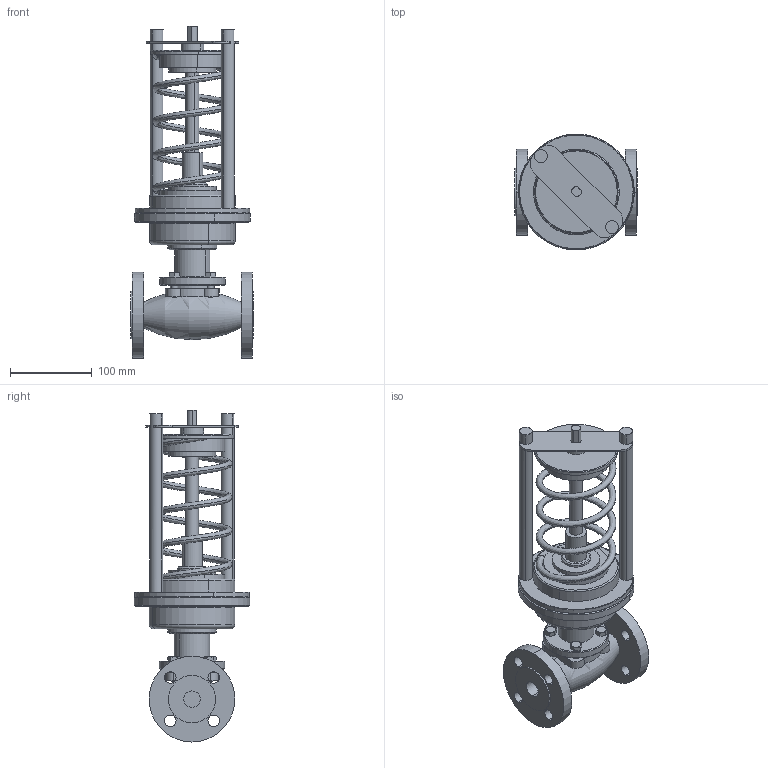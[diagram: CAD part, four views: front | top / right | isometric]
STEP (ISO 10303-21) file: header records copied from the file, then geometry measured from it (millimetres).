
FILE_DESCRIPTION (( 'STEP AP214' ), '1' );
FILE_NAME ('RDT, RDT-B DN-20.STEP', '2025-12-12T05:42:18', ( '' ), ( '' ), 'SwSTEP 2.0', 'SolidWorks 2023', '' );
FILE_SCHEMA (( 'AUTOMOTIVE_DESIGN' ));
Length unit declared in the file: millimetre
Products named in the file (1): RDT, RDT-B DN-20
Bounding box: 150 x 141.86 x 406.5 mm (x, y, z)
Volume: 1660971.5 mm3; surface area: 233132.8 mm2
Topology: 1 solids, 1 shells, 220 faces, 523 edges, 336 vertices
Faces by surface type: cylinder 92, plane 82, cone 36, torus 8, bspline 2
Entity records: 18984 total; most frequent: CARTESIAN_POINT 13639, DIRECTION 1184, ORIENTED_EDGE 1046, EDGE_CURVE 523, AXIS2_PLACEMENT_3D 480, VERTEX_POINT 336, EDGE_LOOP 281, CIRCLE 261
